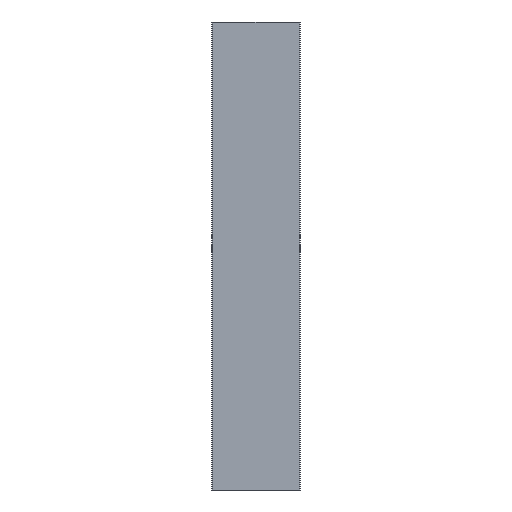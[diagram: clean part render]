
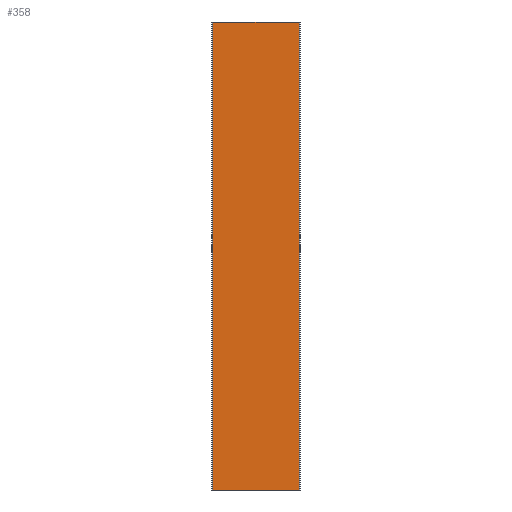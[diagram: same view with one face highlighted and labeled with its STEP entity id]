
A CAD part, left-side view. The second image highlights one B-rep face of the part: STEP entity #358.
In plain terms, the highlighted planar face has unit normal (-1, 0, 0).
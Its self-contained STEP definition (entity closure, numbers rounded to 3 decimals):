
#5 = VERTEX_POINT ( 'NONE', #170 ) ;
#62 = LINE ( 'NONE', #645, #318 ) ;
#74 = VECTOR ( 'NONE', #525, 1000. ) ;
#84 = DIRECTION ( 'NONE',  ( 0., 0., 1. ) ) ;
#90 = VERTEX_POINT ( 'NONE', #96 ) ;
#96 = CARTESIAN_POINT ( 'NONE',  ( -2., 8.7, -100. ) ) ;
#101 = FACE_OUTER_BOUND ( 'NONE', #307, .T. ) ;
#135 = EDGE_CURVE ( 'NONE', #475, #651, #904, .T. ) ;
#146 = EDGE_CURVE ( 'NONE', #90, #475, #301, .T. ) ;
#159 = CARTESIAN_POINT ( 'NONE',  ( -2., 8.7, -100. ) ) ;
#170 = CARTESIAN_POINT ( 'NONE',  ( -2., 8.7, 0. ) ) ;
#203 = VECTOR ( 'NONE', #476, 1000. ) ;
#301 = LINE ( 'NONE', #159, #74 ) ;
#307 = EDGE_LOOP ( 'NONE', ( #504, #858, #626, #937 ) ) ;
#318 = VECTOR ( 'NONE', #941, 1000. ) ;
#358 = ADVANCED_FACE ( 'NONE', ( #101 ), #699, .T. ) ;
#381 = CARTESIAN_POINT ( 'NONE',  ( -2., -9.7, -100. ) ) ;
#436 = DIRECTION ( 'NONE',  ( -1., 0., 0. ) ) ;
#475 = VERTEX_POINT ( 'NONE', #881 ) ;
#476 = DIRECTION ( 'NONE',  ( 0., 0., 1. ) ) ;
#504 = ORIENTED_EDGE ( 'NONE', *, *, #574, .F. ) ;
#524 = VECTOR ( 'NONE', #84, 1000. ) ;
#525 = DIRECTION ( 'NONE',  ( 0., -1., 0. ) ) ;
#552 = LINE ( 'NONE', #622, #203 ) ;
#574 = EDGE_CURVE ( 'NONE', #5, #651, #62, .T. ) ;
#578 = CARTESIAN_POINT ( 'NONE',  ( -2., -9.7, 0. ) ) ;
#622 = CARTESIAN_POINT ( 'NONE',  ( -2., 8.7, -100. ) ) ;
#626 = ORIENTED_EDGE ( 'NONE', *, *, #146, .T. ) ;
#645 = CARTESIAN_POINT ( 'NONE',  ( -2., 8.7, 0. ) ) ;
#651 = VERTEX_POINT ( 'NONE', #578 ) ;
#699 = PLANE ( 'NONE',  #909 ) ;
#717 = CARTESIAN_POINT ( 'NONE',  ( -2., 8.7, -100. ) ) ;
#858 = ORIENTED_EDGE ( 'NONE', *, *, #924, .F. ) ;
#881 = CARTESIAN_POINT ( 'NONE',  ( -2., -9.7, -100. ) ) ;
#904 = LINE ( 'NONE', #381, #524 ) ;
#909 = AXIS2_PLACEMENT_3D ( 'NONE', #717, #436, #968 ) ;
#924 = EDGE_CURVE ( 'NONE', #90, #5, #552, .T. ) ;
#937 = ORIENTED_EDGE ( 'NONE', *, *, #135, .T. ) ;
#941 = DIRECTION ( 'NONE',  ( 0., -1., 0. ) ) ;
#968 = DIRECTION ( 'NONE',  ( 0., -1., 0. ) ) ;
